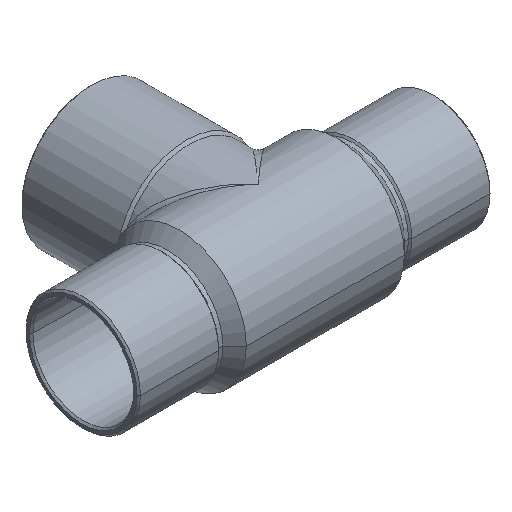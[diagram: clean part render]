
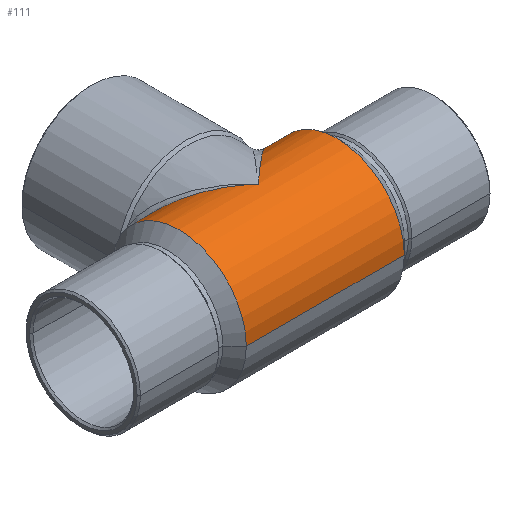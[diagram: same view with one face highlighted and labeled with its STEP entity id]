
A CAD part, isometric view. The second image highlights one B-rep face of the part: STEP entity #111.
In plain terms, the highlighted cylindrical face has radius 8 mm (diameter 16 mm), a partial arc.
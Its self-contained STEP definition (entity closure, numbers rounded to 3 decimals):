
#44=CARTESIAN_POINT('',(0.,0.,0.0));
#45=DIRECTION('',(1.0,0.,0.0));
#46=DIRECTION('',(0.0,1.0,0.0));
#47=AXIS2_PLACEMENT_3D('',#44,#45,#46);
#48=CYLINDRICAL_SURFACE('',#47,8.);
#49=CARTESIAN_POINT('',(-9.4,8.0,0.));
#50=VERTEX_POINT('',#49);
#51=CARTESIAN_POINT('',(-9.,8.,0.));
#52=VERTEX_POINT('',#51);
#53=CARTESIAN_POINT('',(-9.4,8.0,0.));
#54=DIRECTION('',(1.0,0.0,0.0));
#55=VECTOR('',#54,0.4);
#56=LINE('',#53,#55);
#57=EDGE_CURVE('',#50,#52,#56,.T.);
#58=ORIENTED_EDGE('',*,*,#57,.F.);
#59=CARTESIAN_POINT('',(-9.4,-8.,0.));
#60=VERTEX_POINT('',#59);
#61=CARTESIAN_POINT('',(-9.4,0.,0.0));
#62=DIRECTION('',(1.0,0.0,0.0));
#63=DIRECTION('',(0.0,1.0,0.0));
#64=AXIS2_PLACEMENT_3D('',#61,#62,#63);
#65=CIRCLE('',#64,8.);
#66=EDGE_CURVE('',#50,#60,#65,.T.);
#67=ORIENTED_EDGE('',*,*,#66,.T.);
#68=CARTESIAN_POINT('',(9.4,-8.,0.));
#69=VERTEX_POINT('',#68);
#70=CARTESIAN_POINT('',(9.4,-8.,0.));
#71=DIRECTION('',(-1.0,0.0,0.0));
#72=VECTOR('',#71,18.8);
#73=LINE('',#70,#72);
#74=EDGE_CURVE('',#69,#60,#73,.T.);
#75=ORIENTED_EDGE('',*,*,#74,.F.);
#76=CARTESIAN_POINT('',(9.4,8.,0.));
#77=VERTEX_POINT('',#76);
#78=CARTESIAN_POINT('',(9.4,0.,0.0));
#79=DIRECTION('',(-1.0,0.0,0.0));
#80=DIRECTION('',(0.0,1.0,0.0));
#81=AXIS2_PLACEMENT_3D('',#78,#79,#80);
#82=CIRCLE('',#81,8.);
#83=EDGE_CURVE('',#69,#77,#82,.T.);
#84=ORIENTED_EDGE('',*,*,#83,.T.);
#85=CARTESIAN_POINT('',(9.,8.,0.));
#86=VERTEX_POINT('',#85);
#87=CARTESIAN_POINT('',(9.,8.,0.));
#88=DIRECTION('',(1.0,0.0,0.0));
#89=VECTOR('',#88,0.4);
#90=LINE('',#87,#89);
#91=EDGE_CURVE('',#86,#77,#90,.T.);
#92=ORIENTED_EDGE('',*,*,#91,.F.);
#93=CARTESIAN_POINT('',(0.,0.,8.));
#94=VERTEX_POINT('',#93);
#95=CARTESIAN_POINT('',(0.,0.,0.0));
#96=DIRECTION('',(-0.664,0.747,0.));
#97=DIRECTION('',(0.747,0.664,0.0));
#98=AXIS2_PLACEMENT_3D('',#95,#96,#97);
#99=ELLIPSE('',#98,12.042,8.);
#100=EDGE_CURVE('',#94,#86,#99,.T.);
#101=ORIENTED_EDGE('',*,*,#100,.F.);
#102=CARTESIAN_POINT('',(0.,0.,0.0));
#103=DIRECTION('',(0.664,0.747,0.));
#104=DIRECTION('',(-0.747,0.664,0.0));
#105=AXIS2_PLACEMENT_3D('',#102,#103,#104);
#106=ELLIPSE('',#105,12.042,8.);
#107=EDGE_CURVE('',#52,#94,#106,.T.);
#108=ORIENTED_EDGE('',*,*,#107,.F.);
#109=EDGE_LOOP('',(#58,#67,#75,#84,#92,#101,#108));
#110=FACE_OUTER_BOUND('',#109,.T.);
#111=ADVANCED_FACE('',(#110),#48,.T.);
